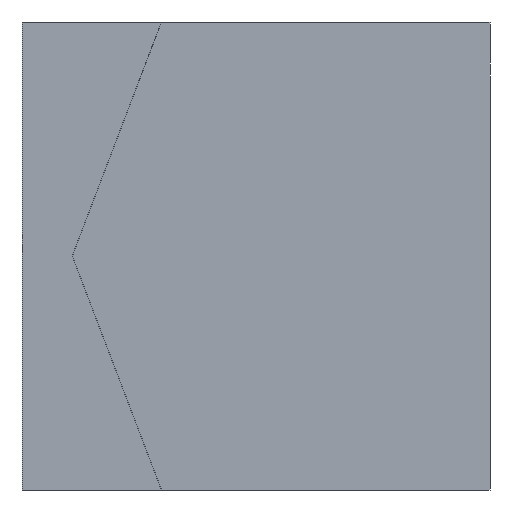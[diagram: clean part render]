
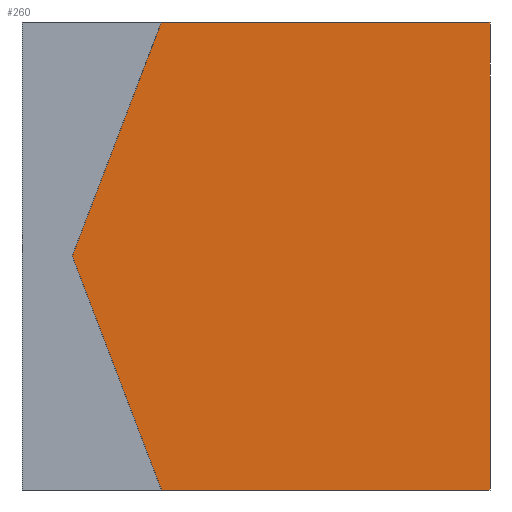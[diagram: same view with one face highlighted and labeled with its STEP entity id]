
A CAD part, front view. The second image highlights one B-rep face of the part: STEP entity #260.
In plain terms, the highlighted planar face has unit normal (0, -1, 0).
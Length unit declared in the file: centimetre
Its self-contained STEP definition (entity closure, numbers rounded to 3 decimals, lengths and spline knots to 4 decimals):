
#6 = EDGE_CURVE ( 'NONE', #276, #152, #450, .T. ) ;
#27 = ORIENTED_EDGE ( 'NONE', *, *, #205, .F. ) ;
#44 = ORIENTED_EDGE ( 'NONE', *, *, #6, .T. ) ;
#45 = VERTEX_POINT ( 'NONE', #328 ) ;
#55 = DIRECTION ( 'NONE',  ( -0.356, 0., 0.934 ) ) ;
#60 = CARTESIAN_POINT ( 'NONE',  ( 0., 0., 1000. ) ) ;
#65 = CARTESIAN_POINT ( 'NONE',  ( 0., 0., 1000. ) ) ;
#73 = DIRECTION ( 'NONE',  ( 1., 0., 0. ) ) ;
#74 = PLANE ( 'NONE',  #429 ) ;
#83 = VERTEX_POINT ( 'NONE', #344 ) ;
#87 = EDGE_CURVE ( 'NONE', #83, #465, #337, .T. ) ;
#96 = VECTOR ( 'NONE', #102, 100. ) ;
#100 = EDGE_CURVE ( 'NONE', #45, #152, #371, .T. ) ;
#102 = DIRECTION ( 'NONE',  ( 0.356, 0., 0.934 ) ) ;
#103 = CARTESIAN_POINT ( 'NONE',  ( 298.0497, 0., 0. ) ) ;
#118 = VECTOR ( 'NONE', #55, 100. ) ;
#127 = ORIENTED_EDGE ( 'NONE', *, *, #248, .F. ) ;
#128 = EDGE_LOOP ( 'NONE', ( #127, #171, #27, #44, #164 ) ) ;
#150 = CARTESIAN_POINT ( 'NONE',  ( 1000., 0., 1000. ) ) ;
#152 = VERTEX_POINT ( 'NONE', #364 ) ;
#164 = ORIENTED_EDGE ( 'NONE', *, *, #100, .F. ) ;
#171 = ORIENTED_EDGE ( 'NONE', *, *, #87, .F. ) ;
#179 = VECTOR ( 'NONE', #73, 100. ) ;
#205 = EDGE_CURVE ( 'NONE', #276, #83, #399, .T. ) ;
#232 = DIRECTION ( 'NONE',  ( 0., 0., -1. ) ) ;
#248 = EDGE_CURVE ( 'NONE', #465, #45, #500, .T. ) ;
#251 = CARTESIAN_POINT ( 'NONE',  ( 107.357, 0., 500. ) ) ;
#257 = DIRECTION ( 'NONE',  ( 1., 0., 0. ) ) ;
#260 = ADVANCED_FACE ( 'NONE', ( #333 ), #74, .F. ) ;
#276 = VERTEX_POINT ( 'NONE', #103 ) ;
#321 = CARTESIAN_POINT ( 'NONE',  ( 298.0497, 0., 1000. ) ) ;
#328 = CARTESIAN_POINT ( 'NONE',  ( 1000., 0., 1000. ) ) ;
#333 = FACE_OUTER_BOUND ( 'NONE', #128, .T. ) ;
#337 = LINE ( 'NONE', #413, #96 ) ;
#340 = VECTOR ( 'NONE', #232, 100. ) ;
#344 = CARTESIAN_POINT ( 'NONE',  ( 107.357, 0., 500. ) ) ;
#364 = CARTESIAN_POINT ( 'NONE',  ( 1000., 0., 0. ) ) ;
#368 = DIRECTION ( 'NONE',  ( 0., 0., 1. ) ) ;
#371 = LINE ( 'NONE', #150, #340 ) ;
#384 = DIRECTION ( 'NONE',  ( 0., 1., 0. ) ) ;
#399 = LINE ( 'NONE', #251, #118 ) ;
#413 = CARTESIAN_POINT ( 'NONE',  ( 298.0497, 0., 1000. ) ) ;
#429 = AXIS2_PLACEMENT_3D ( 'NONE', #65, #384, #368 ) ;
#450 = LINE ( 'NONE', #499, #179 ) ;
#464 = VECTOR ( 'NONE', #257, 100. ) ;
#465 = VERTEX_POINT ( 'NONE', #321 ) ;
#499 = CARTESIAN_POINT ( 'NONE',  ( 0., 0., 0. ) ) ;
#500 = LINE ( 'NONE', #60, #464 ) ;
